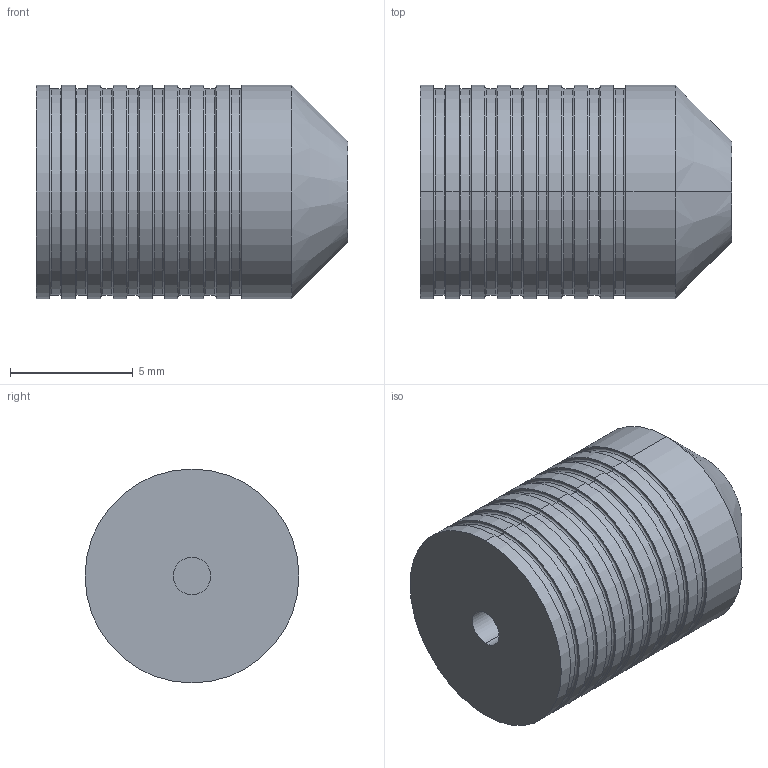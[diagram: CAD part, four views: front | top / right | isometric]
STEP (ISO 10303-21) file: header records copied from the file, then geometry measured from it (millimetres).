
FILE_DESCRIPTION (( 'STEP AP214' ), '1' );
FILE_NAME ('PLGA3431 _ _ 0A.STEP', '2020-02-19T16:07:48', ( 'tlc' ), ( 'Microsoft' ), 'SwSTEP 2.0', 'SolidWorks 2019', '' );
FILE_SCHEMA (( 'AUTOMOTIVE_DESIGN' ));
Length unit declared in the file: inch
Products named in the file (1): PLGA3431 _ _ 0A
Bounding box: 12.7 x 8.72 x 8.72 mm (x, y, z)
Volume: 667.7 mm3; surface area: 511.8 mm2
Topology: 1 solids, 1 shells, 89 faces, 176 edges, 106 vertices
Faces by surface type: cylinder 36, torus 32, plane 19, cone 2
Entity records: 2376 total; most frequent: DIRECTION 494, CARTESIAN_POINT 372, ORIENTED_EDGE 352, AXIS2_PLACEMENT_3D 228, EDGE_CURVE 176, CIRCLE 138, VERTEX_POINT 106, EDGE_LOOP 106
